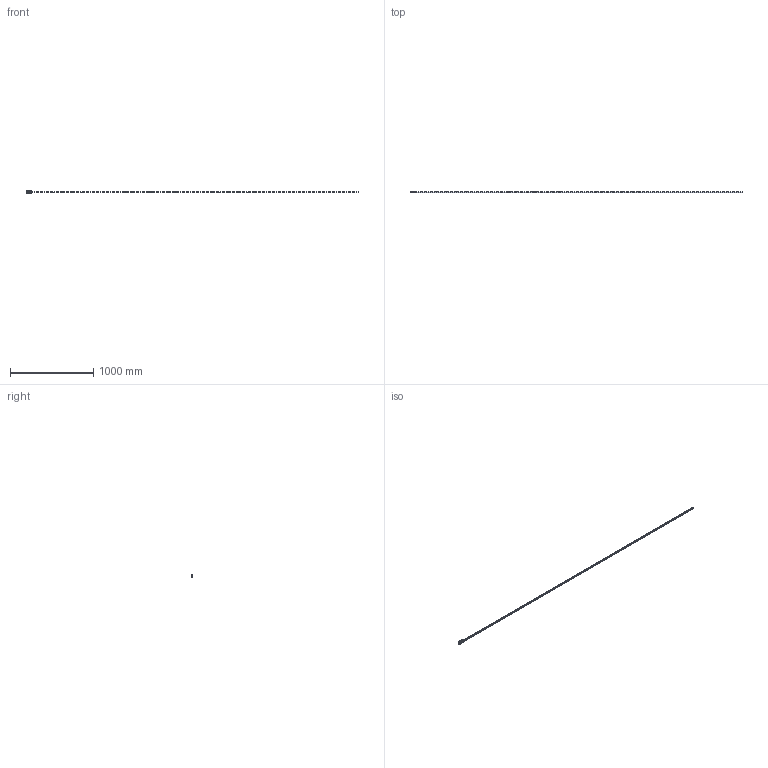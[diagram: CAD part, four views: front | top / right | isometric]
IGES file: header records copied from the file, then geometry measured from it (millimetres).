
Start section: Data from Parasolid IGES Translator 20.0.26, Copyright(c) 2006 Siemens P LM Software. All Rights Reserved.
Global section: file name: FDC12 84494AN_4000-0.igs; native system: By Siemens PLM Incorporated; preprocessor: XPlus GENERIC/IGES 20.0.26; author: Noname; organization: Noname; date: 20220622.045036; units: inch
Bounding box: 4000 x 19 x 37 mm (x, y, z)
Surface area: 267980.4 mm2 (no closed solid volume)
Topology: 0 solids, 0 shells, 838 faces, 4194 edges, 3750 vertices
Faces by surface type: revolution 436, extrusion 402
